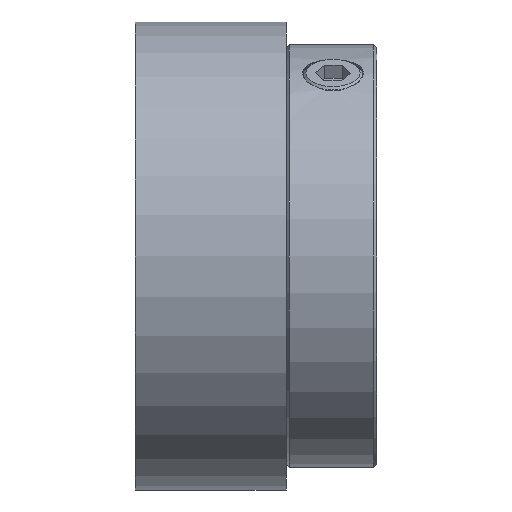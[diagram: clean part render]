
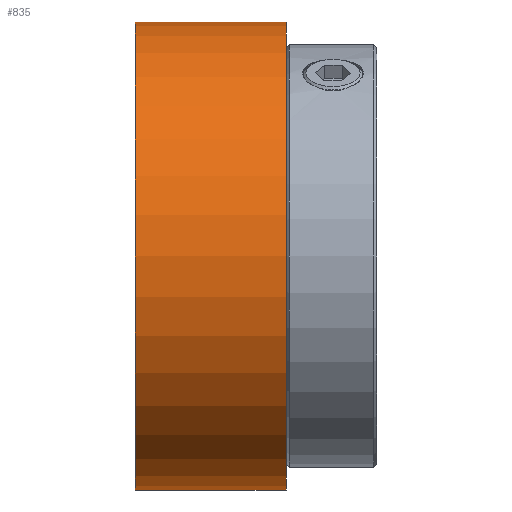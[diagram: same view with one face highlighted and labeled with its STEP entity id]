
A CAD part, front view. The second image highlights one B-rep face of the part: STEP entity #835.
In plain terms, the highlighted cylindrical face has radius 15.5 mm (diameter 31 mm), a full revolution.
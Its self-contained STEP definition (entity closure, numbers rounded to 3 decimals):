
#6 = CIRCLE ( 'NONE', #263, 15.5 ) ;
#43 = CIRCLE ( 'NONE', #242, 15.5 ) ;
#69 = FACE_OUTER_BOUND ( 'NONE', #895, .T. ) ;
#188 = AXIS2_PLACEMENT_3D ( 'NONE', #506, #511, #509 ) ;
#203 = EDGE_CURVE ( 'NONE', #299, #299, #6, .T. ) ;
#242 = AXIS2_PLACEMENT_3D ( 'NONE', #1129, #1127, #1123 ) ;
#243 = EDGE_CURVE ( 'NONE', #310, #310, #43, .T. ) ;
#263 = AXIS2_PLACEMENT_3D ( 'NONE', #1238, #1237, #1236 ) ;
#299 = VERTEX_POINT ( 'NONE', #562 ) ;
#310 = VERTEX_POINT ( 'NONE', #549 ) ;
#506 = CARTESIAN_POINT ( 'NONE',  ( 9.5, 0., 0. ) ) ;
#509 = DIRECTION ( 'NONE',  ( 0., 0., 1. ) ) ;
#511 = DIRECTION ( 'NONE',  ( -1., 0., 0. ) ) ;
#549 = CARTESIAN_POINT ( 'NONE',  ( -0.5, 0., -15.5 ) ) ;
#562 = CARTESIAN_POINT ( 'NONE',  ( 9.5, 0., -15.5 ) ) ;
#674 = FACE_OUTER_BOUND ( 'NONE', #897, .T. ) ;
#678 = CYLINDRICAL_SURFACE ( 'NONE', #188, 15.5 ) ;
#766 = ORIENTED_EDGE ( 'NONE', *, *, #243, .T. ) ;
#767 = ORIENTED_EDGE ( 'NONE', *, *, #203, .F. ) ;
#835 = ADVANCED_FACE ( 'NONE', ( #69, #674 ), #678, .T. ) ;
#895 = EDGE_LOOP ( 'NONE', ( #767 ) ) ;
#897 = EDGE_LOOP ( 'NONE', ( #766 ) ) ;
#1123 = DIRECTION ( 'NONE',  ( 0., 0., -1. ) ) ;
#1127 = DIRECTION ( 'NONE',  ( 1., 0., 0. ) ) ;
#1129 = CARTESIAN_POINT ( 'NONE',  ( -0.5, 0., 0. ) ) ;
#1236 = DIRECTION ( 'NONE',  ( 0., 0., -1. ) ) ;
#1237 = DIRECTION ( 'NONE',  ( 1., 0., 0. ) ) ;
#1238 = CARTESIAN_POINT ( 'NONE',  ( 9.5, 0., 0. ) ) ;
